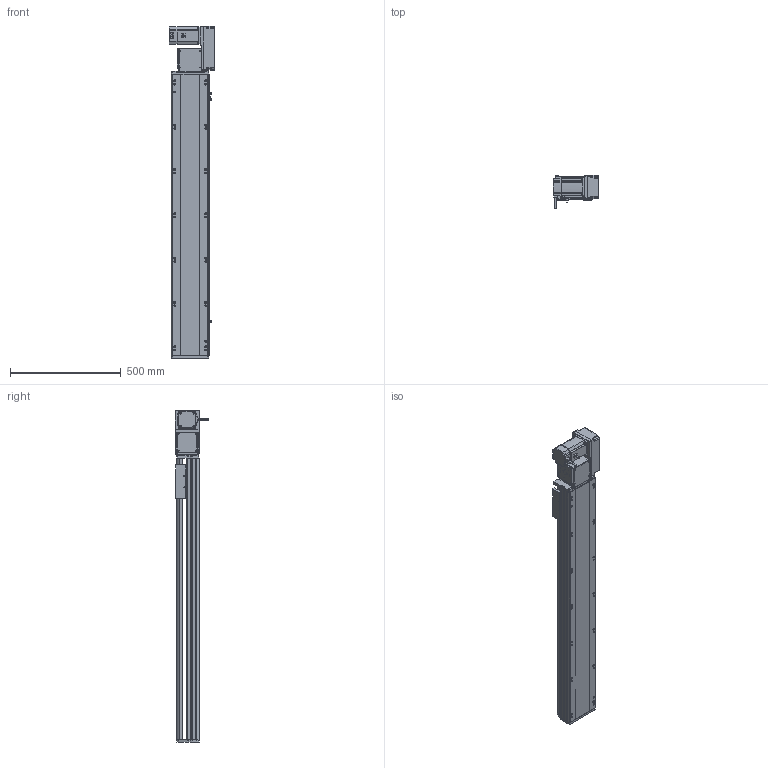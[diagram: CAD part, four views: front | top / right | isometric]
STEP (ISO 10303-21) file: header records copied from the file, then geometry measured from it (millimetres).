
FILE_DESCRIPTION (( 'STEP AP214' ), '1' );
FILE_NAME ('RTB17S-XX-1000-R-M75-C4.STEP', '2025-12-12T01:35:33', ( '' ), ( '' ), 'SwSTEP 2.0', 'SolidWorks 2018', '' );
FILE_SCHEMA (( 'AUTOMOTIVE_DESIGN' ));
Length unit declared in the file: millimetre
Products named in the file (15): RTB17S-L-001-耜醱啣^RTB17S-XX-XX-R-M75-C4; RTB17S-賑釱^RTB17S-XX-XX-R-M75-C4; RTB17S-R-々湍釱蚾饜-750W^RTB17S-XX-XX-R-M75-C4; RTB17S-XX-1000-R-M75-C4; RTB17S-L-014-T20-P75--々湍釱^RTB17S-R-々湍釱蚾饜-750W_RTB17S-XX-XX-R-M75-C4; RTB22S-GY-018P^RTB17S-R-々湍釱蚾饜-750W_RTB17S-XX-XX-R-M75-C4; RTB22S-GY-005P^RTB17S-R-々湍釱蚾饜-750W_RTB17S-XX-XX-R-M75-C4; RTH13-BL-012覜茼え俋离^RTB17S-賑釱_RTB17S-XX-XX-R-M75-C4; EE672^RTB17S-XX-XX-R-M75-C4; RTB22S-GY-017P^RTB17S-R-々湍釱蚾饜-750W_RTB17S-XX-XX-R-M75-C4; 750W萇儂^RTB17S-XX-XX-R-M75-C4; RTB22S-GY-008-M75--萇儂啣^RTB17S-R-々湍釱蚾饜-750W_RTB17S-XX-XX-R-M75-C4; RTB17S-L-007奻裔^RTB17S-XX-XX-R-M75-C4; RTB17-R-011菁釱^RTB17S-XX-XX-R-M75-C4; RTB17S-L-004-賑釱^RTB17S-賑釱_RTB17S-XX-XX-R-M75-C4
Assembly tree (17 placements, depth 3):
  RTB17S-XX-1000-R-M75-C4
    RTB17-R-011菁釱^RTB17S-XX-XX-R-M75-C4
    EE672^RTB17S-XX-XX-R-M75-C4  x3
    RTB17S-L-001-耜醱啣^RTB17S-XX-XX-R-M75-C4
    RTB17S-賑釱^RTB17S-XX-XX-R-M75-C4
      RTB17S-L-004-賑釱^RTB17S-賑釱_RTB17S-XX-XX-R-M75-C4
      RTH13-BL-012覜茼え俋离^RTB17S-賑釱_RTB17S-XX-XX-R-M75-C4
    RTB17S-L-007奻裔^RTB17S-XX-XX-R-M75-C4
    750W萇儂^RTB17S-XX-XX-R-M75-C4
    RTB17S-R-々湍釱蚾饜-750W^RTB17S-XX-XX-R-M75-C4
      RTB17S-L-014-T20-P75--々湍釱^RTB17S-R-々湍釱蚾饜-750W_RTB17S-XX-XX-R-M75-C4
      RTB22S-GY-005P^RTB17S-R-々湍釱蚾饜-750W_RTB17S-XX-XX-R-M75-C4
      RTB22S-GY-017P^RTB17S-R-々湍釱蚾饜-750W_RTB17S-XX-XX-R-M75-C4  x2
      RTB22S-GY-008-M75--萇儂啣^RTB17S-R-々湍釱蚾饜-750W_RTB17S-XX-XX-R-M75-C4
      RTB22S-GY-018P^RTB17S-R-々湍釱蚾饜-750W_RTB17S-XX-XX-R-M75-C4
Bounding box: 207.4 x 152.7 x 1499 mm (x, y, z)
Volume: 12203760.2 mm3; surface area: 2070019.7 mm2
Topology: 17 solids, 17 shells, 2089 faces, 5782 edges, 3734 vertices
Faces by surface type: plane 970, cylinder 703, bspline 294, cone 110, sphere 8, torus 4
Entity records: 58102 total; most frequent: CARTESIAN_POINT 17046, ORIENTED_EDGE 8408, DIRECTION 7862, EDGE_CURVE 4204, AXIS2_PLACEMENT_3D 2754, VERTEX_POINT 2738, LINE 2354, VECTOR 2354
